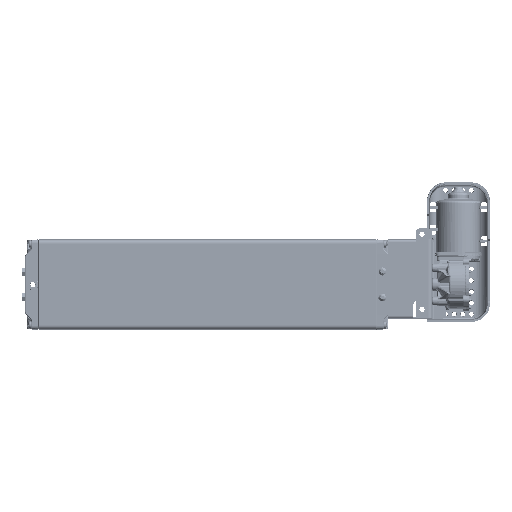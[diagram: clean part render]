
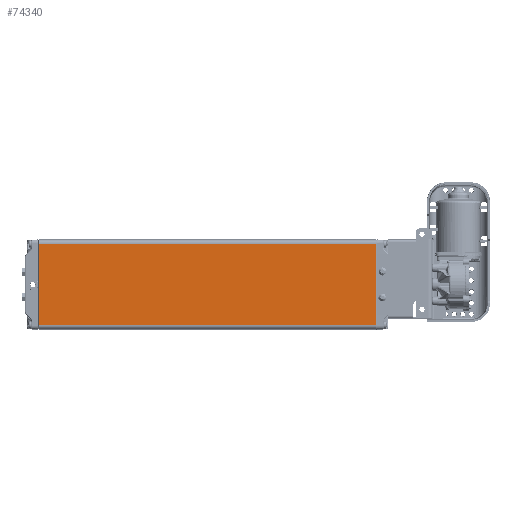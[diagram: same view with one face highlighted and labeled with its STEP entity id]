
A CAD part, top view. The second image highlights one B-rep face of the part: STEP entity #74340.
In plain terms, the highlighted planar face has unit normal (0, 0, 1).
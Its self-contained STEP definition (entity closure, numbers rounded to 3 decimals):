
#7070=LINE('',#125523,#10090);
#7071=LINE('',#125526,#10091);
#7072=LINE('',#125528,#10092);
#7073=LINE('',#125530,#10093);
#10090=VECTOR('',#86734,1000.);
#10091=VECTOR('',#86735,1000.);
#10092=VECTOR('',#86736,1000.);
#10093=VECTOR('',#86737,1000.);
#17786=ORIENTED_EDGE('',*,*,#34827,.T.);
#17787=ORIENTED_EDGE('',*,*,#34828,.T.);
#17788=ORIENTED_EDGE('',*,*,#34829,.T.);
#17789=ORIENTED_EDGE('',*,*,#34830,.T.);
#34827=EDGE_CURVE('',#43573,#43574,#7070,.F.);
#34828=EDGE_CURVE('',#43574,#43575,#7071,.T.);
#34829=EDGE_CURVE('',#43575,#43576,#7072,.T.);
#34830=EDGE_CURVE('',#43576,#43573,#7073,.F.);
#43573=VERTEX_POINT('',#125524);
#43574=VERTEX_POINT('',#125525);
#43575=VERTEX_POINT('',#125527);
#43576=VERTEX_POINT('',#125529);
#51972=EDGE_LOOP('',(#17786,#17787,#17788,#17789));
#56555=FACE_BOUND('',#51972,.T.);
#60296=PLANE('',#78822);
#74340=ADVANCED_FACE('',(#56555),#60296,.T.);
#78822=AXIS2_PLACEMENT_3D('',#125522,#86732,#86733);
#86732=DIRECTION('',(0.,0.,1.));
#86733=DIRECTION('',(1.,0.,0.));
#86734=DIRECTION('',(0.,-1.,0.));
#86735=DIRECTION('',(-1.,0.,0.));
#86736=DIRECTION('',(0.,-1.,0.));
#86737=DIRECTION('',(-1.,0.,0.));
#125522=CARTESIAN_POINT('',(60.,450.5,30.));
#125523=CARTESIAN_POINT('',(54.,450.5,30.));
#125524=CARTESIAN_POINT('',(54.,0.5,30.));
#125525=CARTESIAN_POINT('',(54.,450.,30.));
#125526=CARTESIAN_POINT('',(60.,450.,30.));
#125527=CARTESIAN_POINT('',(-54.,450.,30.));
#125528=CARTESIAN_POINT('',(-54.,450.5,30.));
#125529=CARTESIAN_POINT('',(-54.,0.5,30.));
#125530=CARTESIAN_POINT('',(54.,0.5,30.));
